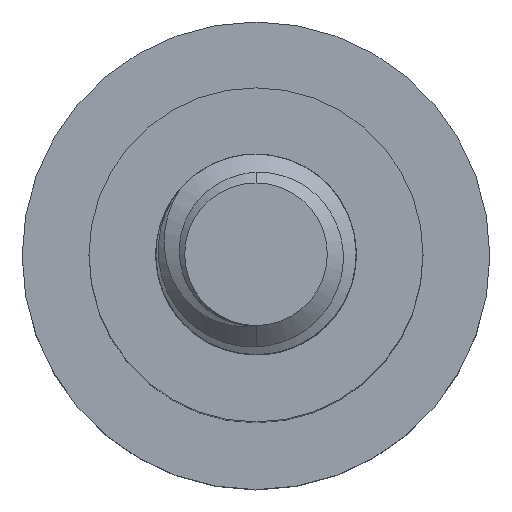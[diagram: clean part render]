
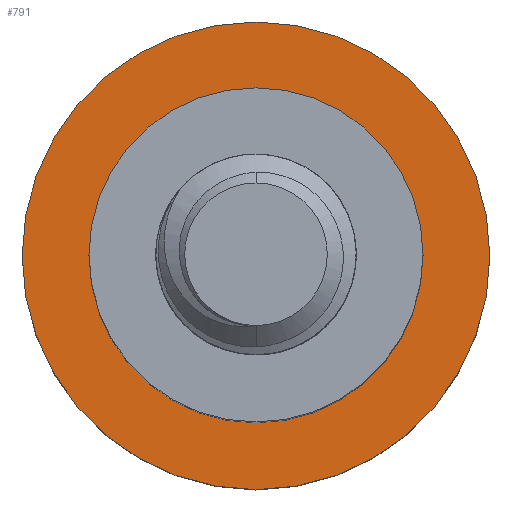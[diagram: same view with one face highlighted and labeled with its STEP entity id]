
A CAD part, top view. The second image highlights one B-rep face of the part: STEP entity #791.
In plain terms, the highlighted planar face has unit normal (0, 0, 1).
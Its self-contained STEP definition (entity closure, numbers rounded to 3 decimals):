
#64 = ORIENTED_EDGE ( 'NONE', *, *, #1198, .T. ) ;
#85 = CARTESIAN_POINT ( 'NONE',  ( 0., 0., -16. ) ) ;
#89 = CIRCLE ( 'NONE', #2211, 7. ) ;
#211 = AXIS2_PLACEMENT_3D ( 'NONE', #1581, #2575, #3306 ) ;
#263 = FACE_OUTER_BOUND ( 'NONE', #3617, .T. ) ;
#324 = CARTESIAN_POINT ( 'NONE',  ( -5., 0., -16. ) ) ;
#634 = DIRECTION ( 'NONE',  ( -1., 0., 0. ) ) ;
#658 = DIRECTION ( 'NONE',  ( 0., 0., -1. ) ) ;
#788 = ORIENTED_EDGE ( 'NONE', *, *, #2965, .T. ) ;
#791 = ADVANCED_FACE ( 'NONE', ( #955, #263 ), #1993, .F. ) ;
#829 = ORIENTED_EDGE ( 'NONE', *, *, #1988, .F. ) ;
#839 = AXIS2_PLACEMENT_3D ( 'NONE', #85, #1499, #2837 ) ;
#955 = FACE_BOUND ( 'NONE', #1821, .T. ) ;
#1022 = DIRECTION ( 'NONE',  ( 0., 0., -1. ) ) ;
#1198 = EDGE_CURVE ( 'NONE', #1990, #2048, #3386, .T. ) ;
#1255 = ORIENTED_EDGE ( 'NONE', *, *, #3673, .F. ) ;
#1288 = VERTEX_POINT ( 'NONE', #2221 ) ;
#1328 = AXIS2_PLACEMENT_3D ( 'NONE', #2018, #658, #634 ) ;
#1364 = CARTESIAN_POINT ( 'NONE',  ( 5., 0., -16. ) ) ;
#1499 = DIRECTION ( 'NONE',  ( 0., 0., -1. ) ) ;
#1524 = AXIS2_PLACEMENT_3D ( 'NONE', #2570, #2544, #3208 ) ;
#1581 = CARTESIAN_POINT ( 'NONE',  ( 0., 0., -16. ) ) ;
#1693 = CARTESIAN_POINT ( 'NONE',  ( 0., 0., -16. ) ) ;
#1821 = EDGE_LOOP ( 'NONE', ( #788, #64 ) ) ;
#1848 = CARTESIAN_POINT ( 'NONE',  ( -7., 0., -16. ) ) ;
#1988 = EDGE_CURVE ( 'NONE', #1288, #2304, #89, .T. ) ;
#1990 = VERTEX_POINT ( 'NONE', #1364 ) ;
#1993 = PLANE ( 'NONE',  #211 ) ;
#2018 = CARTESIAN_POINT ( 'NONE',  ( 0., 0., -16. ) ) ;
#2048 = VERTEX_POINT ( 'NONE', #324 ) ;
#2211 = AXIS2_PLACEMENT_3D ( 'NONE', #1693, #1022, #3010 ) ;
#2221 = CARTESIAN_POINT ( 'NONE',  ( 7., 0., -16. ) ) ;
#2304 = VERTEX_POINT ( 'NONE', #1848 ) ;
#2544 = DIRECTION ( 'NONE',  ( 0., 0., -1. ) ) ;
#2570 = CARTESIAN_POINT ( 'NONE',  ( 0., 0., -16. ) ) ;
#2575 = DIRECTION ( 'NONE',  ( 0., 0., -1. ) ) ;
#2837 = DIRECTION ( 'NONE',  ( -1., 0., 0. ) ) ;
#2965 = EDGE_CURVE ( 'NONE', #2048, #1990, #3058, .T. ) ;
#2994 = CIRCLE ( 'NONE', #839, 7. ) ;
#3010 = DIRECTION ( 'NONE',  ( -1., 0., 0. ) ) ;
#3058 = CIRCLE ( 'NONE', #1328, 5. ) ;
#3208 = DIRECTION ( 'NONE',  ( -1., 0., 0. ) ) ;
#3306 = DIRECTION ( 'NONE',  ( -1., 0., 0. ) ) ;
#3386 = CIRCLE ( 'NONE', #1524, 5. ) ;
#3617 = EDGE_LOOP ( 'NONE', ( #829, #1255 ) ) ;
#3673 = EDGE_CURVE ( 'NONE', #2304, #1288, #2994, .T. ) ;
